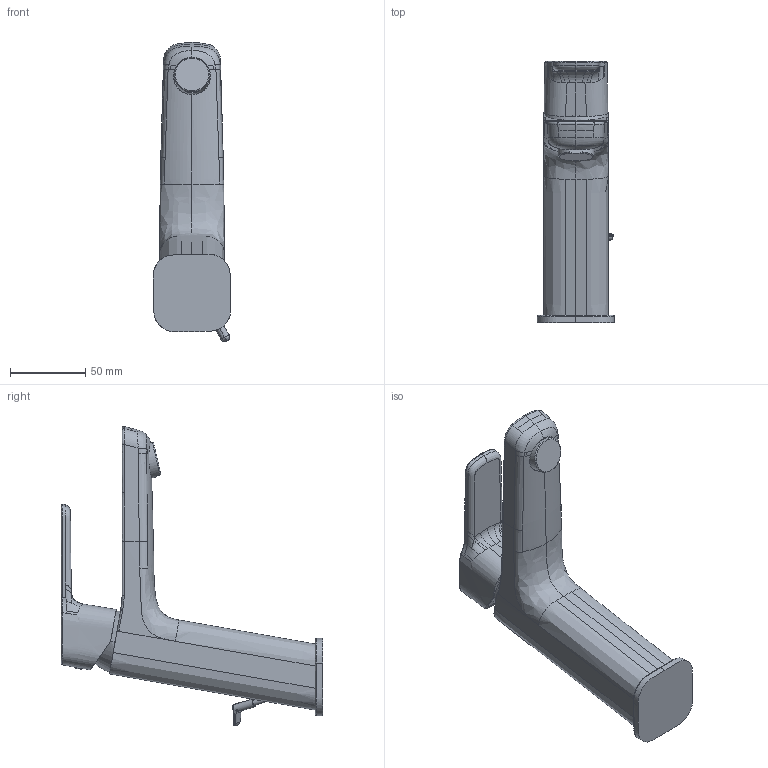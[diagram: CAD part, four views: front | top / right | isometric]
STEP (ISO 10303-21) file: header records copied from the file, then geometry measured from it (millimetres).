
FILE_DESCRIPTION((''),'2;1');
FILE_NAME('12_411_043_XXX','2018-07-19T',('ES997'),(''),'CREO PARAMETRIC BY PTC INC, 2016260','CREO PARAMETRIC BY PTC INC, 2016260','');
FILE_SCHEMA(('CONFIG_CONTROL_DESIGN'));
Length unit declared in the file: millimetre
Products named in the file (1): 12_411_043_XXX
Bounding box: 51.56 x 173.71 x 198.86 mm (x, y, z)
Volume: 408240.8 mm3; surface area: 52326.1 mm2
Topology: 1 solids, 1 shells, 189 faces, 468 edges, 288 vertices
Faces by surface type: bspline 102, cylinder 32, plane 24, extrusion 13, cone 9, torus 7, sphere 2
Entity records: 22699 total; most frequent: CARTESIAN_POINT 19102, ORIENTED_EDGE 934, EDGE_CURVE 467, DIRECTION 399, B_SPLINE_CURVE_WITH_KNOTS 322, VERTEX_POINT 288, EDGE_LOOP 197, FACE_OUTER_BOUND 189
